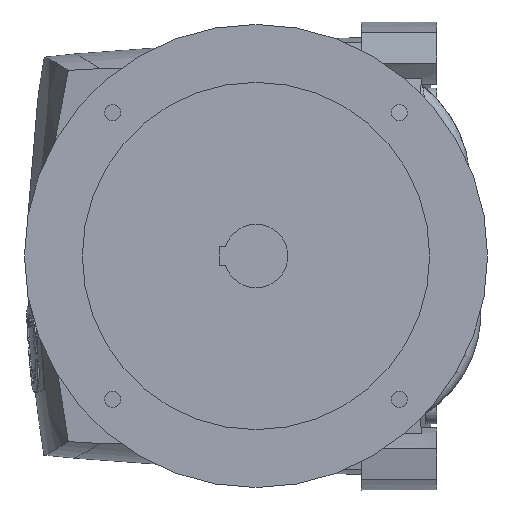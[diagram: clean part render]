
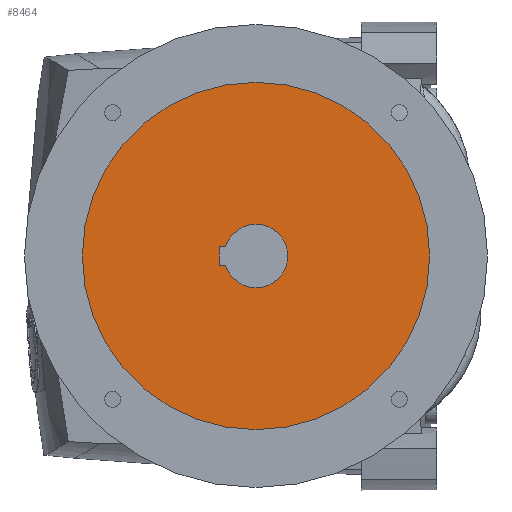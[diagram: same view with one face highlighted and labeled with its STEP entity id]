
A CAD part, left-side view. The second image highlights one B-rep face of the part: STEP entity #8464.
In plain terms, the highlighted planar face has unit normal (-1, 0, 0).
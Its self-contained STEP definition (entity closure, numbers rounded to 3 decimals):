
#136=CARTESIAN_POINT('',(-444.1,71.934,186.364));
#137=DIRECTION('',(-1.,0.,0.));
#138=DIRECTION('',(0.,1.,0.));
#139=AXIS2_PLACEMENT_3D('',#136,#137,#138);
#149=CARTESIAN_POINT('',(-444.1,71.934,186.364));
#150=DIRECTION('',(1.,0.,0.));
#151=DIRECTION('',(0.,1.,0.));
#152=AXIS2_PLACEMENT_3D('',#149,#150,#151);
#154=DIRECTION('',(0.,1.,0.));
#155=VECTOR('',#154,5.489);
#156=CARTESIAN_POINT('',(-444.1,98.245,194.364));
#157=LINE('',#156,#155);
#158=DIRECTION('',(0.,0.,-1.));
#159=VECTOR('',#158,16.);
#160=CARTESIAN_POINT('',(-444.1,103.734,194.364));
#161=LINE('',#160,#159);
#162=DIRECTION('',(0.,-1.,0.));
#163=VECTOR('',#162,5.489);
#164=CARTESIAN_POINT('',(-444.1,103.734,178.364));
#165=LINE('',#164,#163);
#166=CARTESIAN_POINT('',(-444.1,71.934,186.364));
#167=DIRECTION('',(-1.,0.,0.));
#168=DIRECTION('',(0.,0.957,-0.291));
#169=AXIS2_PLACEMENT_3D('',#166,#167,#168);
#8082=CARTESIAN_POINT('',(-444.1,221.934,186.364));
#8084=VERTEX_POINT('',#8082);
#8090=CARTESIAN_POINT('',(-444.1,-78.066,
186.364));
#8092=VERTEX_POINT('',#8090);
#8148=CARTESIAN_POINT('',(-444.1,98.245,194.364));
#8149=CARTESIAN_POINT('',(-444.1,103.734,194.364));
#8150=VERTEX_POINT('',#8148);
#8151=VERTEX_POINT('',#8149);
#8152=CARTESIAN_POINT('',(-444.1,103.734,178.364));
#8153=VERTEX_POINT('',#8152);
#8154=CARTESIAN_POINT('',(-444.1,98.245,178.364));
#8155=VERTEX_POINT('',#8154);
#8445=CARTESIAN_POINT('',(-444.1,71.934,186.364));
#8446=DIRECTION('',(-1.,0.,0.));
#8447=DIRECTION('',(0.,-1.,0.));
#8448=AXIS2_PLACEMENT_3D('',#8445,#8446,#8447);
#8449=PLANE('',#8448);
#8450=ORIENTED_EDGE('',*,*,#8440,.T.);
#8451=ORIENTED_EDGE('',*,*,#8424,.F.);
#8452=EDGE_LOOP('',(#8450,#8451));
#8453=FACE_OUTER_BOUND('',#8452,.F.);
#8455=ORIENTED_EDGE('',*,*,#8454,.T.);
#8457=ORIENTED_EDGE('',*,*,#8456,.T.);
#8459=ORIENTED_EDGE('',*,*,#8458,.T.);
#8461=ORIENTED_EDGE('',*,*,#8460,.T.);
#8462=EDGE_LOOP('',(#8455,#8457,#8459,#8461));
#8463=FACE_BOUND('',#8462,.F.);
#8464=ADVANCED_FACE('',(#8453,#8463),#8449,.T.);
#140=CIRCLE('',#139,150.);
#153=CIRCLE('',#152,150.);
#170=CIRCLE('',#169,27.5);
#8424=EDGE_CURVE('',#8084,#8092,#140,.T.);
#8440=EDGE_CURVE('',#8084,#8092,#153,.T.);
#8454=EDGE_CURVE('',#8150,#8151,#157,.T.);
#8456=EDGE_CURVE('',#8151,#8153,#161,.T.);
#8458=EDGE_CURVE('',#8153,#8155,#165,.T.);
#8460=EDGE_CURVE('',#8155,#8150,#170,.T.);
